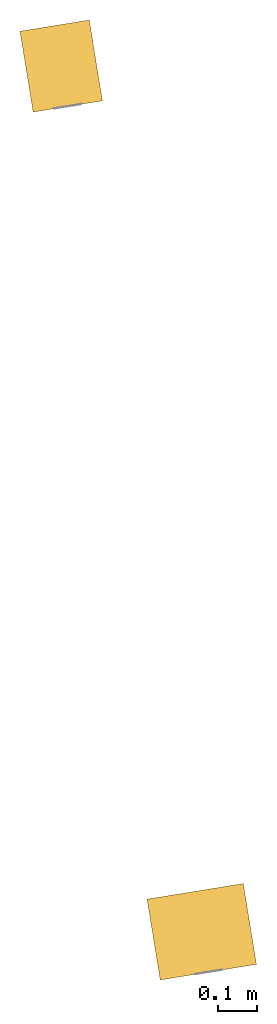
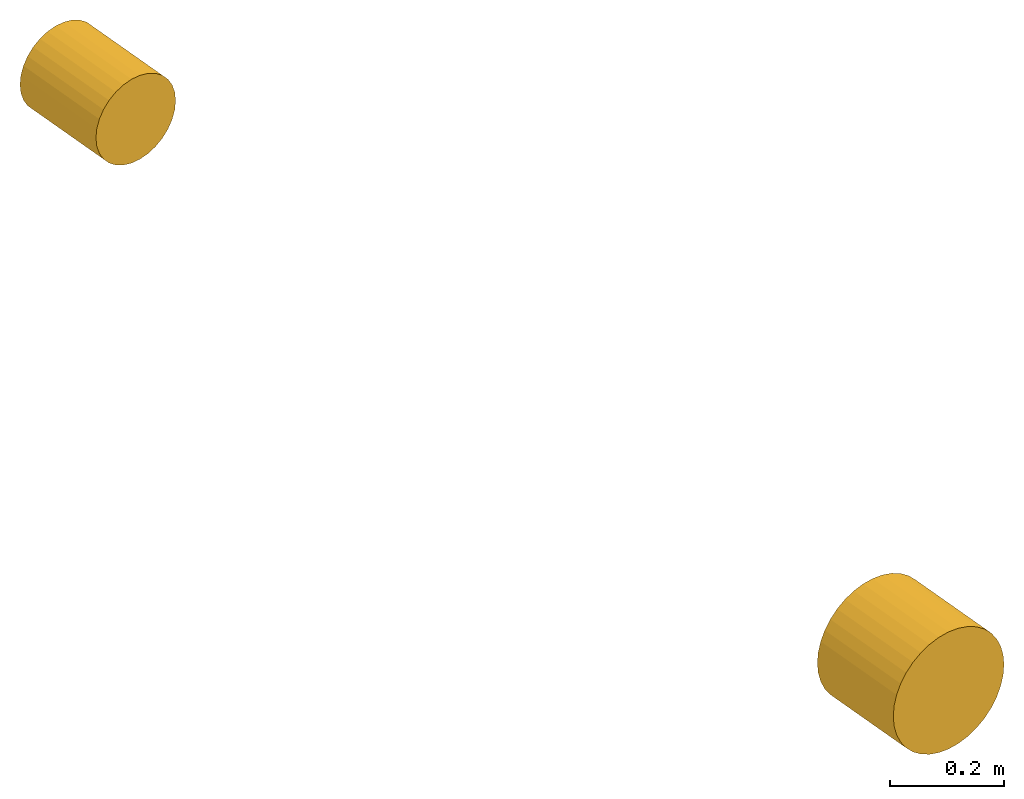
# One storey, part 2 of 2: 2 windows.
"""IFC2X3 building model written with IfcOpenShell, lengths in millimetres."""

from ifc_helpers import new_model, entity, si_unit, converted_unit, derived_unit, direction, frame, frame_2d, origin, origin_with_axes, place, context, subcontext, project, spatial, circle, extrude, source, transform, mapped, material, type_object, element, save


model = new_model("IFC2X3")

# Units and contexts
plan_context = context("Plan", 3, precision=1e-05, world=origin_with_axes())
model_context = context("Model", 3, precision=0.01, world=origin(), true_north=direction((6.12323399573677e-17, 1.0)))
body_context = subcontext(model_context, "Body", "Model", "MODEL_VIEW")
ifc_project = project(units=[converted_unit("PLANEANGLEUNIT", "DEGREE", entity("IfcPositiveLengthMeasure", 0.0174532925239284), si_unit("PLANEANGLEUNIT", "RADIAN"), dimensions=[0, 0, 0, 0, 0, 0, 0]), si_unit("AREAUNIT", "SQUARE_METRE"), si_unit("LENGTHUNIT", "METRE", prefix="MILLI"), si_unit("MASSUNIT", "GRAM", prefix="KILO"), si_unit("POWERUNIT", "WATT"), si_unit("PRESSUREUNIT", "PASCAL", prefix="KILO"), si_unit("FORCEUNIT", "NEWTON", prefix="KILO"), si_unit("ELECTRICVOLTAGEUNIT", "VOLT"), si_unit("ELECTRICCURRENTUNIT", "AMPERE"), si_unit("THERMODYNAMICTEMPERATUREUNIT", "DEGREE_CELSIUS"), si_unit("TIMEUNIT", "SECOND"), si_unit("VOLUMEUNIT", "CUBIC_METRE"), derived_unit("LINEARVELOCITYUNIT", [(si_unit("LENGTHUNIT", "METRE"), 1), (si_unit("TIMEUNIT", "SECOND"), -1)]), derived_unit("VOLUMETRICFLOWRATEUNIT", [(si_unit("VOLUMEUNIT", "CUBIC_METRE"), 1), (si_unit("TIMEUNIT", "SECOND"), -1)]), derived_unit("THERMALTRANSMITTANCEUNIT", [(si_unit("POWERUNIT", "WATT"), 1), (si_unit("THERMODYNAMICTEMPERATUREUNIT", "KELVIN"), -1), (si_unit("AREAUNIT", "SQUARE_METRE"), -1)]), derived_unit("SOUNDPRESSUREUNIT", [(si_unit("PRESSUREUNIT", "PASCAL"), 1)])], contexts=[model_context, plan_context])

# Site, building, storey
site_placement = place(None, frame((-0.00071070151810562, 0.00438415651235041, 0.0), z_axis=(0.0, 0.0, 1.0), x_axis=(-0.160236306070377, 0.987078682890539, 0.0)))
site = spatial("IfcSite", under=ifc_project, at=site_placement, Name="Default", CompositionType="ELEMENT")
building_placement = place(site_placement, origin_with_axes())
building = spatial("IfcBuilding", under=site, at=building_placement, CompositionType="ELEMENT")
storey_placement = place(building_placement, frame((0.0, 0.0, 42100.0000000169), z_axis=(0.0, 0.0, 1.0), x_axis=(1.0, 0.0, 0.0)))
storey = spatial("IfcBuildingStorey", under=building, at=storey_placement, Name="Nivå A", CompositionType="ELEMENT", Elevation=42100.0000000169)

# Windows
ifc_material = material(Name="Utsparing")
window_style_1 = type_object("IfcWindowStyle", Name="Hullboring Sirkulær:V", ConstructionType="NOTDEFINED", OperationType="NOTDEFINED", ParameterTakesPrecedence=False, Sizeable=False, material=ifc_material)
shared_shape_1 = source(origin(), body_context, "Body", "SweptSolid", [
    extrude(circle(Radius=125.0, at=frame_2d((0.0, -2.01943071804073e-13), x_axis=(1.0, 0.0))), frame((0.0, 0.0, 0.0), z_axis=(0.0, 0.0, 1.0), x_axis=(-1.0, 0.0, 0.0)), (0.0, 0.0, 1.0), 209.999999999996),
])
window_1_placement = place(storey_placement, frame((766674.11965436, -504762.771934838, 15929.9999999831), z_axis=(1.0, 0.0, 0.0), x_axis=(0.0, -1.0, 0.0)))
element("IfcWindow", 1, at=window_1_placement, inside=storey, type_object=window_style_1, material=ifc_material, Name="Hullboring Sirkulær:V", ObjectType="Hullboring Sirkulær:V", OverallHeight=250.0, OverallWidth=250.000000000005, context=body_context, shape_type="MappedRepresentation", body=[
    mapped(shared_shape_1, transform((0.0, 0.0, 0.0), scale=1.0)),
])
window_style_2 = type_object("IfcWindowStyle", Name="Hullboring Sirkulær:V", ConstructionType="NOTDEFINED", OperationType="NOTDEFINED", ParameterTakesPrecedence=False, Sizeable=False, material=ifc_material)
shared_shape_2 = source(origin(), body_context, "Body", "SweptSolid", [
    extrude(circle(Radius=90.0, at=frame_2d((0.0, -1.45399011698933e-13), x_axis=(1.0, 0.0))), frame((0.0, 0.0, 0.0), z_axis=(0.0, 0.0, 1.0), x_axis=(-1.0, 0.0, 0.0)), (0.0, 0.0, 1.0), 209.999999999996),
])
window_2_placement = place(storey_placement, frame((768922.619644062, -504762.771934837, 15929.9999999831), z_axis=(1.0, 0.0, 0.0), x_axis=(0.0, -1.0, 0.0)))
element("IfcWindow", 2, at=window_2_placement, inside=storey, type_object=window_style_2, material=ifc_material, Name="Hullboring Sirkulær:V", ObjectType="Hullboring Sirkulær:V", OverallHeight=200.0, OverallWidth=180.000000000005, context=body_context, shape_type="MappedRepresentation", body=[
    mapped(shared_shape_2, transform((0.0, 0.0, 0.0), scale=1.0)),
])

save(model, "model.ifc")
